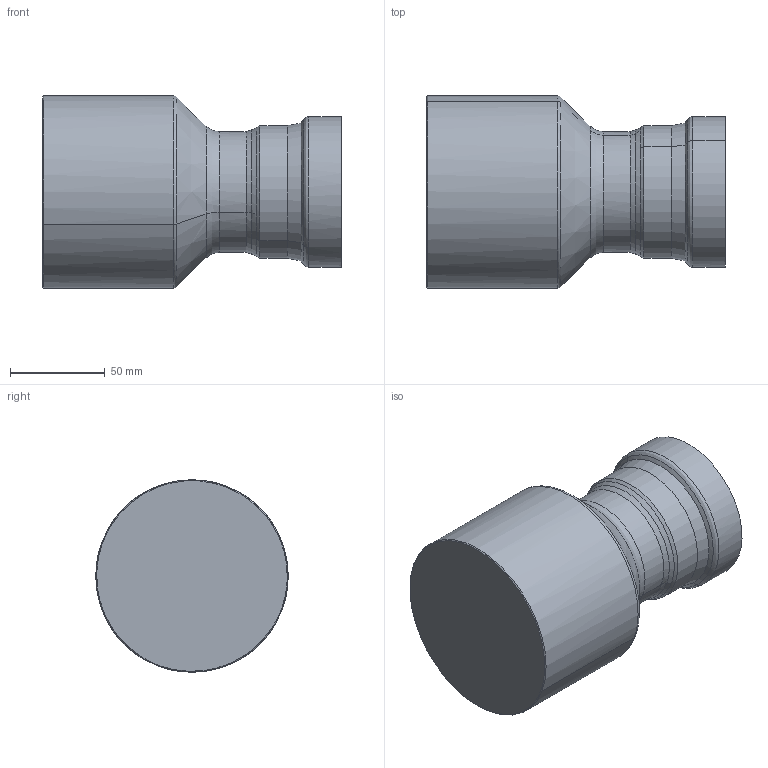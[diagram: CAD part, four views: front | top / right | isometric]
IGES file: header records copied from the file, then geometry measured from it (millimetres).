
Start section: 3D InterOp IGES (Version 25 0 1), Spatial Corp. Copyright (c) 1999-2007.
Global section: file name: pim0004360.igs; native system: Spatial Corp.; preprocessor: 3D InterOp ACIS/IGES; author: Cad-Pim; organization: TransMagic, Inc.; date: 20150430.125504; units: millimetre
Bounding box: 157.5 x 101.47 x 101.47 mm (x, y, z)
Volume: 803431.5 mm3; surface area: 66389.3 mm2
Topology: 1 solids, 1 shells, 35 faces, 91 edges, 59 vertices
Faces by surface type: bspline 13, cone 12, cylinder 10
